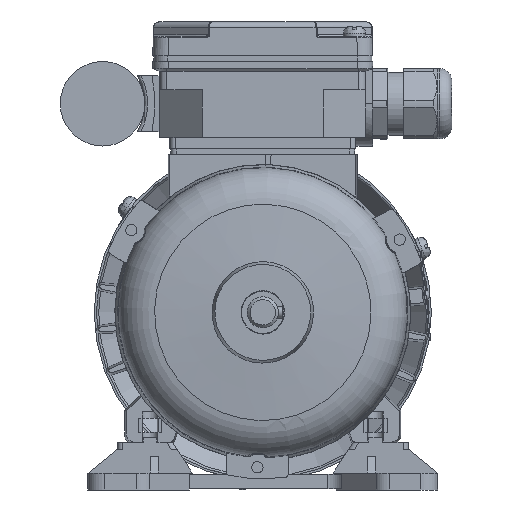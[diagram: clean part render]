
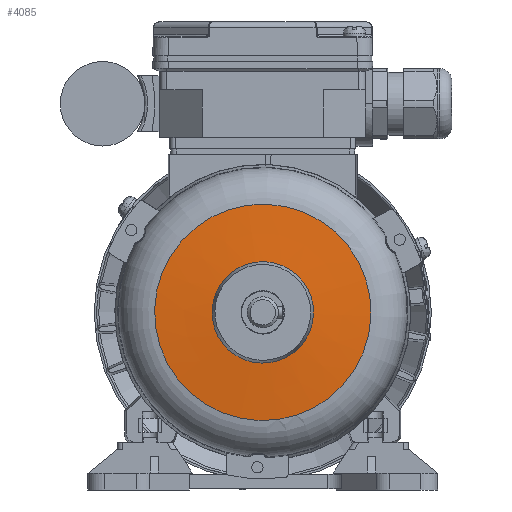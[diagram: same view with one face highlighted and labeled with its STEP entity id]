
A CAD part, left-side view. The second image highlights one B-rep face of the part: STEP entity #4085.
In plain terms, the highlighted conical face has half-angle 85.5 degrees and reference radius 38.379 mm.
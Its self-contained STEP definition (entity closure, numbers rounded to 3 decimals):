
#4085 = ADVANCED_FACE( '', ( #8860, #8861 ), #8862, .T. );
#8860 = FACE_BOUND( '', #18123, .T. );
#8861 = FACE_OUTER_BOUND( '', #18124, .T. );
#8862 = CONICAL_SURFACE( '', #18125, 38.379, 1.492 );
#18123 = EDGE_LOOP( '', ( #36320 ) );
#18124 = EDGE_LOOP( '', ( #36321 ) );
#18125 = AXIS2_PLACEMENT_3D( '', #36322, #36323, #36324 );
#36320 = ORIENTED_EDGE( '', *, *, #50376, .T. );
#36321 = ORIENTED_EDGE( '', *, *, #50250, .F. );
#36322 = CARTESIAN_POINT( '', ( 0., 0., 36.396 ) );
#36323 = DIRECTION( '', ( 0., 0., -1. ) );
#36324 = DIRECTION( '', ( -1., 0., 0. ) );
#50250 = EDGE_CURVE( '', #60364, #60364, #60365, .T. );
#50376 = EDGE_CURVE( '', #60540, #60540, #60541, .T. );
#60364 = VERTEX_POINT( '', #77759 );
#60365 = CIRCLE( '', #77760, 38.379 );
#60540 = VERTEX_POINT( '', #78361 );
#60541 = CIRCLE( '', #78362, 18. );
#77759 = CARTESIAN_POINT( '', ( -38.379, 0., 36.396 ) );
#77760 = AXIS2_PLACEMENT_3D( '', #91483, #91484, #91485 );
#78361 = CARTESIAN_POINT( '', ( -18., 0., 38. ) );
#78362 = AXIS2_PLACEMENT_3D( '', #91597, #91598, #91599 );
#91483 = CARTESIAN_POINT( '', ( 0., 0., 36.396 ) );
#91484 = DIRECTION( '', ( 0., 0., -1. ) );
#91485 = DIRECTION( '', ( -1., 0., 0. ) );
#91597 = CARTESIAN_POINT( '', ( 0., 0., 38. ) );
#91598 = DIRECTION( '', ( 0., 0., -1. ) );
#91599 = DIRECTION( '', ( -1., 0., 0. ) );
